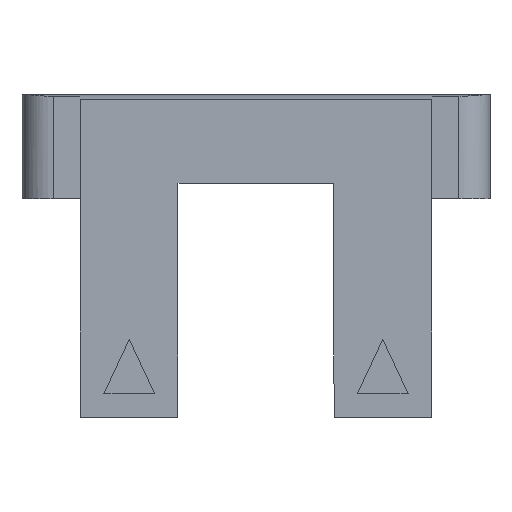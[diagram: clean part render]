
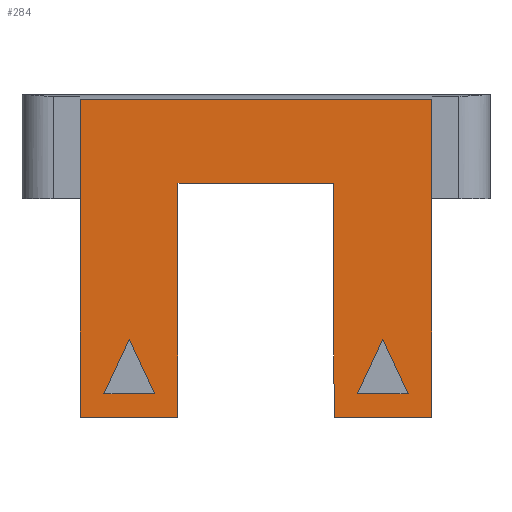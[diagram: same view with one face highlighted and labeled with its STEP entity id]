
A CAD part, front view. The second image highlights one B-rep face of the part: STEP entity #284.
In plain terms, the highlighted planar face has unit normal (0, -1, 0).
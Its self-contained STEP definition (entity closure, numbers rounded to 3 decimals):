
#284=ADVANCED_FACE('',(#431,#432,#433),#375,.F.);
#375=PLANE('',#1700);
#431=FACE_BOUND('',#458,.T.);
#432=FACE_BOUND('',#459,.T.);
#433=FACE_BOUND('',#460,.T.);
#458=EDGE_LOOP('',(#563,#564,#565));
#459=EDGE_LOOP('',(#566,#567,#568,#569,#570,#571,#572,#573));
#460=EDGE_LOOP('',(#574,#575,#576));
#563=ORIENTED_EDGE('',*,*,#1165,.F.);
#564=ORIENTED_EDGE('',*,*,#1166,.F.);
#565=ORIENTED_EDGE('',*,*,#1167,.F.);
#566=ORIENTED_EDGE('',*,*,#1168,.T.);
#567=ORIENTED_EDGE('',*,*,#1169,.F.);
#568=ORIENTED_EDGE('',*,*,#1170,.F.);
#569=ORIENTED_EDGE('',*,*,#1171,.F.);
#570=ORIENTED_EDGE('',*,*,#1172,.F.);
#571=ORIENTED_EDGE('',*,*,#1173,.F.);
#572=ORIENTED_EDGE('',*,*,#1174,.T.);
#573=ORIENTED_EDGE('',*,*,#1175,.T.);
#574=ORIENTED_EDGE('',*,*,#1176,.F.);
#575=ORIENTED_EDGE('',*,*,#1177,.F.);
#576=ORIENTED_EDGE('',*,*,#1178,.F.);
#1017=VERTEX_POINT('',#2289);
#1018=VERTEX_POINT('',#2290);
#1019=VERTEX_POINT('',#2292);
#1020=VERTEX_POINT('',#2295);
#1021=VERTEX_POINT('',#2296);
#1022=VERTEX_POINT('',#2298);
#1023=VERTEX_POINT('',#2300);
#1024=VERTEX_POINT('',#2302);
#1025=VERTEX_POINT('',#2304);
#1026=VERTEX_POINT('',#2306);
#1027=VERTEX_POINT('',#2308);
#1028=VERTEX_POINT('',#2311);
#1029=VERTEX_POINT('',#2312);
#1030=VERTEX_POINT('',#2314);
#1165=EDGE_CURVE('',#1017,#1018,#1392,.T.);
#1166=EDGE_CURVE('',#1019,#1017,#1393,.T.);
#1167=EDGE_CURVE('',#1018,#1019,#1394,.T.);
#1168=EDGE_CURVE('',#1020,#1021,#1395,.T.);
#1169=EDGE_CURVE('',#1022,#1021,#1396,.T.);
#1170=EDGE_CURVE('',#1023,#1022,#1397,.T.);
#1171=EDGE_CURVE('',#1024,#1023,#1398,.T.);
#1172=EDGE_CURVE('',#1025,#1024,#1399,.T.);
#1173=EDGE_CURVE('',#1026,#1025,#1400,.T.);
#1174=EDGE_CURVE('',#1026,#1027,#1401,.T.);
#1175=EDGE_CURVE('',#1027,#1020,#1402,.T.);
#1176=EDGE_CURVE('',#1028,#1029,#1403,.T.);
#1177=EDGE_CURVE('',#1030,#1028,#1404,.T.);
#1178=EDGE_CURVE('',#1029,#1030,#1405,.T.);
#1392=LINE('',#2288,#1545);
#1393=LINE('',#2291,#1546);
#1394=LINE('',#2293,#1547);
#1395=LINE('',#2294,#1548);
#1396=LINE('',#2297,#1549);
#1397=LINE('',#2299,#1550);
#1398=LINE('',#2301,#1551);
#1399=LINE('',#2303,#1552);
#1400=LINE('',#2305,#1553);
#1401=LINE('',#2307,#1554);
#1402=LINE('',#2309,#1555);
#1403=LINE('',#2310,#1556);
#1404=LINE('',#2313,#1557);
#1405=LINE('',#2315,#1558);
#1545=VECTOR('',#1847,1.);
#1546=VECTOR('',#1848,1.);
#1547=VECTOR('',#1849,1.);
#1548=VECTOR('',#1850,1.);
#1549=VECTOR('',#1851,1.);
#1550=VECTOR('',#1852,1.);
#1551=VECTOR('',#1853,1.);
#1552=VECTOR('',#1854,1.);
#1553=VECTOR('',#1855,1.);
#1554=VECTOR('',#1856,1.);
#1555=VECTOR('',#1857,1.);
#1556=VECTOR('',#1858,1.);
#1557=VECTOR('',#1859,1.);
#1558=VECTOR('',#1860,1.);
#1700=AXIS2_PLACEMENT_3D('',#2316,#1861,#1862);
#1847=DIRECTION('',(1.,0.,0.));
#1848=DIRECTION('',(-0.421,0.,-0.907));
#1849=DIRECTION('',(-0.421,0.,0.907));
#1850=DIRECTION('',(0.,0.,1.));
#1851=DIRECTION('',(1.,0.,0.));
#1852=DIRECTION('',(0.,0.,1.));
#1853=DIRECTION('',(-1.,0.,0.));
#1854=DIRECTION('',(0.,0.,-1.));
#1855=DIRECTION('',(-1.,0.,0.));
#1856=DIRECTION('',(0.,0.,-1.));
#1857=DIRECTION('',(1.,0.,0.));
#1858=DIRECTION('',(1.,0.,0.));
#1859=DIRECTION('',(-0.421,0.,-0.907));
#1860=DIRECTION('',(-0.421,0.,0.907));
#1861=DIRECTION('',(0.,1.,0.));
#1862=DIRECTION('',(0.,0.,-1.));
#2288=CARTESIAN_POINT('',(67.288,19.95,18.65));
#2289=CARTESIAN_POINT('',(70.288,19.95,18.65));
#2290=CARTESIAN_POINT('',(76.788,19.95,18.65));
#2291=CARTESIAN_POINT('',(80.069,19.95,39.716));
#2292=CARTESIAN_POINT('',(73.538,19.95,25.65));
#2293=CARTESIAN_POINT('',(64.791,19.95,44.491));
#2294=CARTESIAN_POINT('',(112.288,19.95,25.65));
#2295=CARTESIAN_POINT('',(112.288,19.95,15.65));
#2296=CARTESIAN_POINT('',(112.288,19.95,56.417));
#2297=CARTESIAN_POINT('',(122.788,19.95,56.417));
#2298=CARTESIAN_POINT('',(67.288,19.95,56.417));
#2299=CARTESIAN_POINT('',(67.288,19.95,25.65));
#2300=CARTESIAN_POINT('',(67.288,19.95,15.65));
#2301=CARTESIAN_POINT('',(79.788,19.95,15.65));
#2302=CARTESIAN_POINT('',(79.788,19.95,15.65));
#2303=CARTESIAN_POINT('',(79.788,19.95,69.5));
#2304=CARTESIAN_POINT('',(79.788,19.95,45.65));
#2305=CARTESIAN_POINT('',(69.788,19.95,45.65));
#2306=CARTESIAN_POINT('',(99.788,19.95,45.65));
#2307=CARTESIAN_POINT('',(99.788,19.95,69.5));
#2308=CARTESIAN_POINT('',(99.788,19.95,15.65));
#2309=CARTESIAN_POINT('',(99.788,19.95,15.65));
#2310=CARTESIAN_POINT('',(99.788,19.95,18.65));
#2311=CARTESIAN_POINT('',(102.788,19.95,18.65));
#2312=CARTESIAN_POINT('',(109.288,19.95,18.65));
#2313=CARTESIAN_POINT('',(112.569,19.95,39.716));
#2314=CARTESIAN_POINT('',(106.038,19.95,25.65));
#2315=CARTESIAN_POINT('',(97.291,19.95,44.491));
#2316=CARTESIAN_POINT('',(109.788,19.95,69.5));
